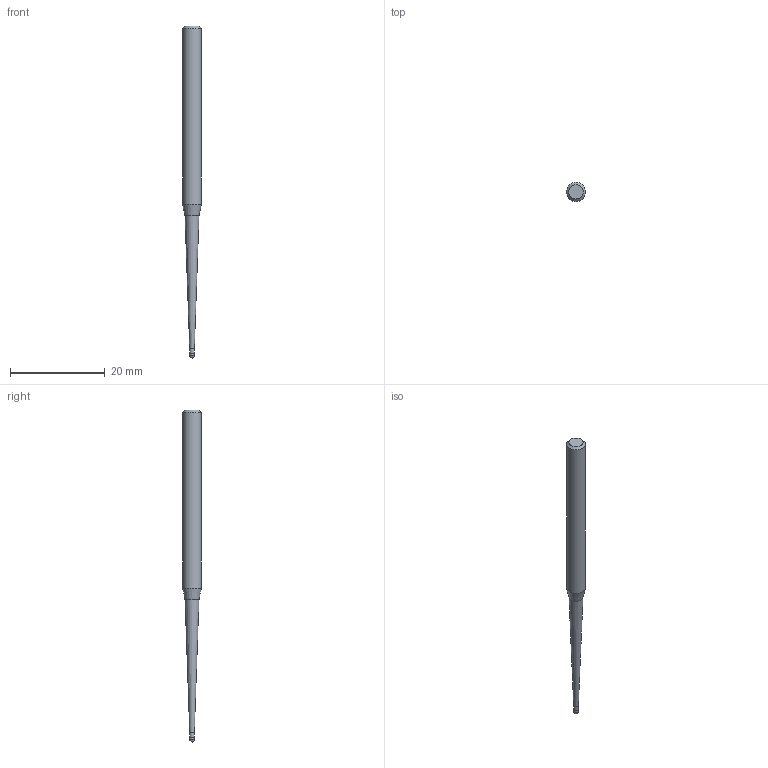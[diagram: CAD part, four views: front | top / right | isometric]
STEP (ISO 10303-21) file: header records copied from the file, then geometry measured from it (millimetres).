
FILE_DESCRIPTION((''),'2;1');
FILE_NAME('C:\Users\nsx150\AppData\Local\Temp\Mastercam 2021\SNAKH10GOD\TEMP.step','2021-10-21T13:32:20',(''),(''),'STEP Write','Mastercam 2021 ... CNC Software, Inc.','');
FILE_SCHEMA(('AUTOMOTIVE_DESIGN'));
Length unit declared in the file: millimetre
Products named in the file (1): None
Bounding box: 4 x 4 x 70 mm (x, y, z)
Volume: 588 mm3; surface area: 689.2 mm2
Topology: 2 solids, 2 shells, 10 faces, 16 edges, 9 vertices
Faces by surface type: plane 3, cylinder 3, cone 3, sphere 1
Full cylindrical faces by diameter (mm): 0.985 x1, 1 x1, 4 x1
Entity records: 232 total; most frequent: DIRECTION 40, CARTESIAN_POINT 28, AXIS2_PLACEMENT_3D 20, ORIENTED_EDGE 16, EDGE_LOOP 16, STYLED_ITEM 13, ADVANCED_FACE 10, FACE_BOUND 9
